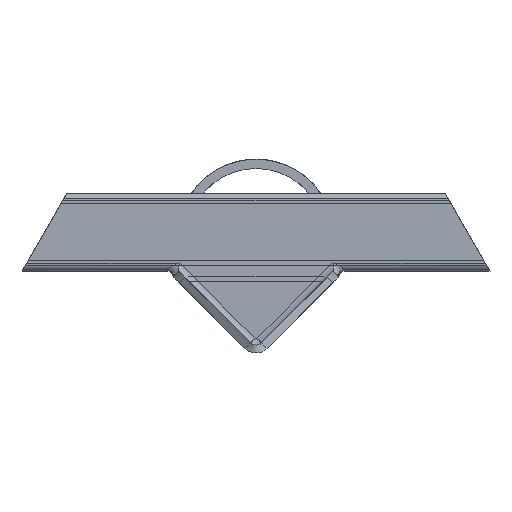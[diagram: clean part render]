
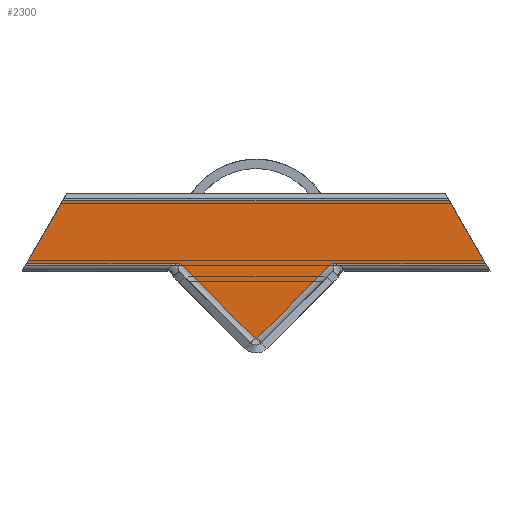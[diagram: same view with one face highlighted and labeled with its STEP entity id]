
A CAD part, front view. The second image highlights one B-rep face of the part: STEP entity #2300.
In plain terms, the highlighted planar face has unit normal (0, -1, 0).
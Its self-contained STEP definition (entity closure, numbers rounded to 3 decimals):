
#199 = CARTESIAN_POINT ( 'NONE',  ( 30.222, 0., 32.702 ) ) ;
#245 = CARTESIAN_POINT ( 'NONE',  ( -30.228, 0., 32.7 ) ) ;
#270 = CARTESIAN_POINT ( 'NONE',  ( -29.409, 0., 32.944 ) ) ;
#323 = CARTESIAN_POINT ( 'NONE',  ( -29.409, 0., 32.944 ) ) ;
#491 = VECTOR ( 'NONE', #2972, 1000. ) ;
#515 = CARTESIAN_POINT ( 'NONE',  ( 29.678, 0., 32.864 ) ) ;
#517 = DIRECTION ( 'NONE',  ( 0., -1., 0. ) ) ;
#590 = CARTESIAN_POINT ( 'NONE',  ( -74.412, 0., 56.698 ) ) ;
#737 = CARTESIAN_POINT ( 'NONE',  ( 0., 0., 4.243 ) ) ;
#745 = VERTEX_POINT ( 'NONE', #323 ) ;
#818 = PLANE ( 'NONE',  #2715 ) ;
#1033 = CARTESIAN_POINT ( 'NONE',  ( 32.01, 0., 130.141 ) ) ;
#1081 = CARTESIAN_POINT ( 'NONE',  ( -30.222, 0., 32.702 ) ) ;
#1098 = VERTEX_POINT ( 'NONE', #2057 ) ;
#1104 = CARTESIAN_POINT ( 'NONE',  ( -30.234, 0., 32.698 ) ) ;
#1188 = EDGE_CURVE ( 'NONE', #4032, #3368, #3204, .T. ) ;
#1228 = CARTESIAN_POINT ( 'NONE',  ( 30.228, 0., 32.7 ) ) ;
#1236 = ORIENTED_EDGE ( 'NONE', *, *, #4349, .T. ) ;
#1273 = AXIS2_PLACEMENT_3D ( 'NONE', #737, #3027, #3118 ) ;
#1297 = LINE ( 'NONE', #2800, #3780 ) ;
#1342 = FACE_OUTER_BOUND ( 'NONE', #2178, .T. ) ;
#1405 = LINE ( 'NONE', #1834, #491 ) ;
#1471 = B_SPLINE_CURVE_WITH_KNOTS ( 'NONE', 3,
 ( #2410, #515, #2776, #3096, #199, #1228, #4619 ),
 .UNSPECIFIED., .F., .F.,
 ( 4, 3, 4 ),
 ( 0., 0.001, 0.001 ),
 .UNSPECIFIED. ) ;
#1484 = VERTEX_POINT ( 'NONE', #590 ) ;
#1525 = CARTESIAN_POINT ( 'NONE',  ( 27.931, 0., 31.466 ) ) ;
#1699 = VECTOR ( 'NONE', #3444, 1000. ) ;
#1741 = CARTESIAN_POINT ( 'NONE',  ( -29.678, 0., 32.864 ) ) ;
#1747 = LINE ( 'NONE', #1033, #4178 ) ;
#1787 = DIRECTION ( 'NONE',  ( -0.5, 0., -0.866 ) ) ;
#1814 = CARTESIAN_POINT ( 'NONE',  ( -29.947, 0., 32.784 ) ) ;
#1834 = CARTESIAN_POINT ( 'NONE',  ( -90., 0., 32.698 ) ) ;
#1914 = ORIENTED_EDGE ( 'NONE', *, *, #4659, .T. ) ;
#2040 = EDGE_CURVE ( 'NONE', #2350, #3875, #4172, .T. ) ;
#2057 = CARTESIAN_POINT ( 'NONE',  ( 74.412, 0., 56.698 ) ) ;
#2178 = EDGE_LOOP ( 'NONE', ( #1914, #4712, #3623, #4519, #3499, #4852, #1236, #3081, #3723, #3585 ) ) ;
#2264 = CARTESIAN_POINT ( 'NONE',  ( 88.268, 0., 32.698 ) ) ;
#2300 = ADVANCED_FACE ( 'NONE', ( #1342 ), #818, .T. ) ;
#2350 = VERTEX_POINT ( 'NONE', #4420 ) ;
#2393 = CARTESIAN_POINT ( 'NONE',  ( -0.354, 0., 3.889 ) ) ;
#2410 = CARTESIAN_POINT ( 'NONE',  ( 29.409, 0., 32.944 ) ) ;
#2412 = EDGE_CURVE ( 'NONE', #3368, #745, #3399, .T. ) ;
#2471 = VERTEX_POINT ( 'NONE', #3892 ) ;
#2554 = DIRECTION ( 'NONE',  ( -1., 0., 0. ) ) ;
#2586 = CARTESIAN_POINT ( 'NONE',  ( -30.216, 0., 32.704 ) ) ;
#2601 = EDGE_CURVE ( 'NONE', #1098, #1484, #2895, .T. ) ;
#2715 = AXIS2_PLACEMENT_3D ( 'NONE', #3815, #517, #3510 ) ;
#2721 = VECTOR ( 'NONE', #2554, 1000. ) ;
#2776 = CARTESIAN_POINT ( 'NONE',  ( 29.947, 0., 32.784 ) ) ;
#2795 = EDGE_CURVE ( 'NONE', #745, #4211, #3819, .T. ) ;
#2800 = CARTESIAN_POINT ( 'NONE',  ( -77.01, 0., 52.198 ) ) ;
#2895 = LINE ( 'NONE', #2976, #2721 ) ;
#2972 = DIRECTION ( 'NONE',  ( 1., 0., 0. ) ) ;
#2976 = CARTESIAN_POINT ( 'NONE',  ( -90., 0., 56.698 ) ) ;
#3027 = DIRECTION ( 'NONE',  ( 0., -1., 0. ) ) ;
#3081 = ORIENTED_EDGE ( 'NONE', *, *, #1188, .T. ) ;
#3096 = CARTESIAN_POINT ( 'NONE',  ( 30.216, 0., 32.704 ) ) ;
#3118 = DIRECTION ( 'NONE',  ( 0., 0., -1. ) ) ;
#3204 = LINE ( 'NONE', #4340, #4841 ) ;
#3267 = DIRECTION ( 'NONE',  ( -0.5, 0., 0.866 ) ) ;
#3368 = VERTEX_POINT ( 'NONE', #4132 ) ;
#3399 = B_SPLINE_CURVE_WITH_KNOTS ( 'NONE', 3,
 ( #1104, #245, #1081, #2586, #1814, #1741, #270 ),
 .UNSPECIFIED., .F., .F.,
 ( 4, 3, 4 ),
 ( 0., 0., 0.001 ),
 .UNSPECIFIED. ) ;
#3411 = DIRECTION ( 'NONE',  ( 0.707, 0., 0.707 ) ) ;
#3444 = DIRECTION ( 'NONE',  ( 0.707, 0., -0.707 ) ) ;
#3499 = ORIENTED_EDGE ( 'NONE', *, *, #3993, .T. ) ;
#3510 = DIRECTION ( 'NONE',  ( 0., 0., -1. ) ) ;
#3555 = VERTEX_POINT ( 'NONE', #2264 ) ;
#3585 = ORIENTED_EDGE ( 'NONE', *, *, #2795, .T. ) ;
#3623 = ORIENTED_EDGE ( 'NONE', *, *, #4305, .T. ) ;
#3723 = ORIENTED_EDGE ( 'NONE', *, *, #2412, .T. ) ;
#3779 = EDGE_CURVE ( 'NONE', #2471, #3555, #1405, .T. ) ;
#3780 = VECTOR ( 'NONE', #1787, 1000. ) ;
#3815 = CARTESIAN_POINT ( 'NONE',  ( -90., 0., 59.698 ) ) ;
#3819 = LINE ( 'NONE', #2393, #1699 ) ;
#3875 = VERTEX_POINT ( 'NONE', #4215 ) ;
#3890 = VECTOR ( 'NONE', #3411, 1000. ) ;
#3892 = CARTESIAN_POINT ( 'NONE',  ( 30.234, 0., 32.698 ) ) ;
#3946 = DIRECTION ( 'NONE',  ( 1., 0., 0. ) ) ;
#3993 = EDGE_CURVE ( 'NONE', #3555, #1098, #1747, .T. ) ;
#4032 = VERTEX_POINT ( 'NONE', #4718 ) ;
#4132 = CARTESIAN_POINT ( 'NONE',  ( -30.234, 0., 32.698 ) ) ;
#4154 = CARTESIAN_POINT ( 'NONE',  ( -0.354, 0., 3.889 ) ) ;
#4172 = LINE ( 'NONE', #1525, #3890 ) ;
#4178 = VECTOR ( 'NONE', #3267, 1000. ) ;
#4211 = VERTEX_POINT ( 'NONE', #4154 ) ;
#4215 = CARTESIAN_POINT ( 'NONE',  ( 29.409, 0., 32.944 ) ) ;
#4305 = EDGE_CURVE ( 'NONE', #3875, #2471, #1471, .T. ) ;
#4340 = CARTESIAN_POINT ( 'NONE',  ( -90., 0., 32.698 ) ) ;
#4349 = EDGE_CURVE ( 'NONE', #1484, #4032, #1297, .T. ) ;
#4420 = CARTESIAN_POINT ( 'NONE',  ( 0.354, 0., 3.889 ) ) ;
#4519 = ORIENTED_EDGE ( 'NONE', *, *, #3779, .T. ) ;
#4619 = CARTESIAN_POINT ( 'NONE',  ( 30.234, 0., 32.698 ) ) ;
#4650 = CIRCLE ( 'NONE', #1273, 0.5 ) ;
#4659 = EDGE_CURVE ( 'NONE', #4211, #2350, #4650, .T. ) ;
#4712 = ORIENTED_EDGE ( 'NONE', *, *, #2040, .T. ) ;
#4718 = CARTESIAN_POINT ( 'NONE',  ( -88.268, 0., 32.698 ) ) ;
#4841 = VECTOR ( 'NONE', #3946, 1000. ) ;
#4852 = ORIENTED_EDGE ( 'NONE', *, *, #2601, .T. ) ;
